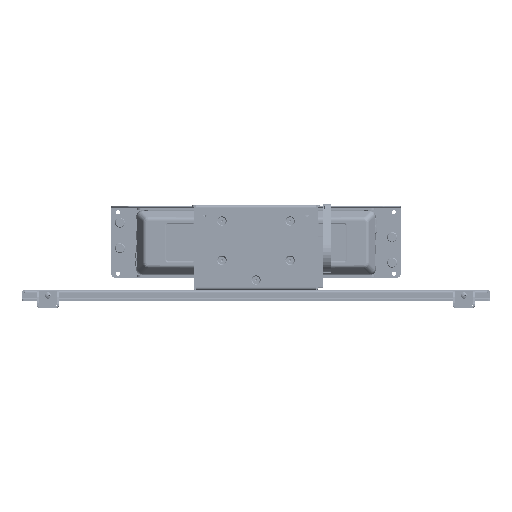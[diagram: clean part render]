
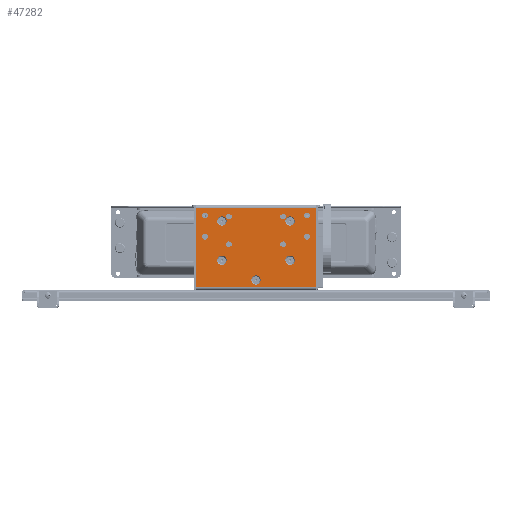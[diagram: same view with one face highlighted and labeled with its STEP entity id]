
A CAD part, top view. The second image highlights one B-rep face of the part: STEP entity #47282.
In plain terms, the highlighted planar face has unit normal (0, 0, 1) as drawn and (0, 1, 0) by its records, which use the part's own axes.
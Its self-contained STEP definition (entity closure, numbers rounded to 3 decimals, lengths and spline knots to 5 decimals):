
#3332=CIRCLE('',#54415,0.00437);
#3334=CIRCLE('',#54418,0.00437);
#3336=CIRCLE('',#54421,0.00437);
#3338=CIRCLE('',#54424,0.00437);
#3356=CIRCLE('',#54453,0.00697);
#3358=CIRCLE('',#54456,0.00697);
#3360=CIRCLE('',#54459,0.00697);
#3362=CIRCLE('',#54462,0.00697);
#3364=CIRCLE('',#54465,0.00697);
#3366=CIRCLE('',#54468,0.00369);
#3368=CIRCLE('',#54471,0.00369);
#3370=CIRCLE('',#54474,0.00369);
#3372=CIRCLE('',#54477,0.00369);
#7561=LINE('',#83080,#11660);
#7689=LINE('',#83621,#11788);
#7718=LINE('',#83691,#11817);
#7719=LINE('',#83692,#11818);
#11660=VECTOR('',#66211,1.);
#11788=VECTOR('',#66759,1.);
#11817=VECTOR('',#66844,1.);
#11818=VECTOR('',#66845,1.);
#23576=ORIENTED_EDGE('',*,*,#30824,.T.);
#23577=ORIENTED_EDGE('',*,*,#31105,.T.);
#23578=ORIENTED_EDGE('',*,*,#31067,.F.);
#23579=ORIENTED_EDGE('',*,*,#31106,.T.);
#23580=ORIENTED_EDGE('',*,*,#30827,.F.);
#23581=ORIENTED_EDGE('',*,*,#30829,.F.);
#23582=ORIENTED_EDGE('',*,*,#30831,.F.);
#23583=ORIENTED_EDGE('',*,*,#30833,.F.);
#23584=ORIENTED_EDGE('',*,*,#30859,.F.);
#23585=ORIENTED_EDGE('',*,*,#30861,.F.);
#23586=ORIENTED_EDGE('',*,*,#30863,.F.);
#23587=ORIENTED_EDGE('',*,*,#30865,.F.);
#23588=ORIENTED_EDGE('',*,*,#30867,.F.);
#23589=ORIENTED_EDGE('',*,*,#30869,.F.);
#23590=ORIENTED_EDGE('',*,*,#30871,.F.);
#23591=ORIENTED_EDGE('',*,*,#30873,.F.);
#23592=ORIENTED_EDGE('',*,*,#30875,.F.);
#30824=EDGE_CURVE('',#35539,#35540,#7561,.T.);
#30827=EDGE_CURVE('',#35541,#35541,#3332,.F.);
#30829=EDGE_CURVE('',#35543,#35543,#3334,.F.);
#30831=EDGE_CURVE('',#35545,#35545,#3336,.F.);
#30833=EDGE_CURVE('',#35547,#35547,#3338,.F.);
#30859=EDGE_CURVE('',#35573,#35573,#3356,.T.);
#30861=EDGE_CURVE('',#35575,#35575,#3358,.T.);
#30863=EDGE_CURVE('',#35577,#35577,#3360,.T.);
#30865=EDGE_CURVE('',#35579,#35579,#3362,.T.);
#30867=EDGE_CURVE('',#35581,#35581,#3364,.T.);
#30869=EDGE_CURVE('',#35583,#35583,#3366,.T.);
#30871=EDGE_CURVE('',#35585,#35585,#3368,.T.);
#30873=EDGE_CURVE('',#35587,#35587,#3370,.T.);
#30875=EDGE_CURVE('',#35589,#35589,#3372,.T.);
#31067=EDGE_CURVE('',#35741,#35742,#7689,.T.);
#31105=EDGE_CURVE('',#35540,#35742,#7718,.T.);
#31106=EDGE_CURVE('',#35741,#35539,#7719,.T.);
#35539=VERTEX_POINT('',#83081);
#35540=VERTEX_POINT('',#83082);
#35541=VERTEX_POINT('',#83087);
#35543=VERTEX_POINT('',#83092);
#35545=VERTEX_POINT('',#83097);
#35547=VERTEX_POINT('',#83102);
#35573=VERTEX_POINT('',#83165);
#35575=VERTEX_POINT('',#83170);
#35577=VERTEX_POINT('',#83175);
#35579=VERTEX_POINT('',#83180);
#35581=VERTEX_POINT('',#83185);
#35583=VERTEX_POINT('',#83190);
#35585=VERTEX_POINT('',#83195);
#35587=VERTEX_POINT('',#83200);
#35589=VERTEX_POINT('',#83205);
#35741=VERTEX_POINT('',#83620);
#35742=VERTEX_POINT('',#83622);
#39603=EDGE_LOOP('',(#23576,#23577,#23578,#23579));
#39604=EDGE_LOOP('',(#23580));
#39605=EDGE_LOOP('',(#23581));
#39606=EDGE_LOOP('',(#23582));
#39607=EDGE_LOOP('',(#23583));
#39608=EDGE_LOOP('',(#23584));
#39609=EDGE_LOOP('',(#23585));
#39610=EDGE_LOOP('',(#23586));
#39611=EDGE_LOOP('',(#23587));
#39612=EDGE_LOOP('',(#23588));
#39613=EDGE_LOOP('',(#23589));
#39614=EDGE_LOOP('',(#23590));
#39615=EDGE_LOOP('',(#23591));
#39616=EDGE_LOOP('',(#23592));
#43027=FACE_BOUND('',#39603,.T.);
#43028=FACE_BOUND('',#39604,.T.);
#43029=FACE_BOUND('',#39605,.T.);
#43030=FACE_BOUND('',#39606,.T.);
#43031=FACE_BOUND('',#39607,.T.);
#43032=FACE_BOUND('',#39608,.T.);
#43033=FACE_BOUND('',#39609,.T.);
#43034=FACE_BOUND('',#39610,.T.);
#43035=FACE_BOUND('',#39611,.T.);
#43036=FACE_BOUND('',#39612,.T.);
#43037=FACE_BOUND('',#39613,.T.);
#43038=FACE_BOUND('',#39614,.T.);
#43039=FACE_BOUND('',#39615,.T.);
#43040=FACE_BOUND('',#39616,.T.);
#44817=PLANE('',#54649);
#47282=ADVANCED_FACE('',(#43027,#43028,#43029,#43030,#43031,#43032,#43033,
#43034,#43035,#43036,#43037,#43038,#43039,#43040),#44817,.F.);
#54415=AXIS2_PLACEMENT_3D('',#83086,#66218,#66219);
#54418=AXIS2_PLACEMENT_3D('',#83091,#66224,#66225);
#54421=AXIS2_PLACEMENT_3D('',#83096,#66230,#66231);
#54424=AXIS2_PLACEMENT_3D('',#83101,#66236,#66237);
#54453=AXIS2_PLACEMENT_3D('',#83164,#66302,#66303);
#54456=AXIS2_PLACEMENT_3D('',#83169,#66308,#66309);
#54459=AXIS2_PLACEMENT_3D('',#83174,#66314,#66315);
#54462=AXIS2_PLACEMENT_3D('',#83179,#66320,#66321);
#54465=AXIS2_PLACEMENT_3D('',#83184,#66326,#66327);
#54468=AXIS2_PLACEMENT_3D('',#83189,#66332,#66333);
#54471=AXIS2_PLACEMENT_3D('',#83194,#66338,#66339);
#54474=AXIS2_PLACEMENT_3D('',#83199,#66344,#66345);
#54477=AXIS2_PLACEMENT_3D('',#83204,#66350,#66351);
#54649=AXIS2_PLACEMENT_3D('',#83690,#66842,#66843);
#66211=DIRECTION('',(-1.,0.,0.));
#66218=DIRECTION('',(0.,-1.,0.));
#66219=DIRECTION('',(0.,0.,-1.));
#66224=DIRECTION('',(0.,-1.,0.));
#66225=DIRECTION('',(0.,0.,-1.));
#66230=DIRECTION('',(0.,-1.,0.));
#66231=DIRECTION('',(0.,0.,-1.));
#66236=DIRECTION('',(0.,-1.,0.));
#66237=DIRECTION('',(0.,0.,-1.));
#66302=DIRECTION('',(0.,1.,0.));
#66303=DIRECTION('',(0.,0.,1.));
#66308=DIRECTION('',(0.,1.,0.));
#66309=DIRECTION('',(0.,0.,1.));
#66314=DIRECTION('',(0.,1.,0.));
#66315=DIRECTION('',(0.,0.,1.));
#66320=DIRECTION('',(0.,1.,0.));
#66321=DIRECTION('',(0.,0.,1.));
#66326=DIRECTION('',(0.,1.,0.));
#66327=DIRECTION('',(0.,0.,1.));
#66332=DIRECTION('',(0.,1.,0.));
#66333=DIRECTION('',(0.,0.,1.));
#66338=DIRECTION('',(0.,1.,0.));
#66339=DIRECTION('',(0.,0.,1.));
#66344=DIRECTION('',(0.,1.,0.));
#66345=DIRECTION('',(0.,0.,1.));
#66350=DIRECTION('',(0.,1.,0.));
#66351=DIRECTION('',(0.,0.,1.));
#66759=DIRECTION('',(-1.,0.,0.));
#66842=DIRECTION('',(0.,-1.,0.));
#66843=DIRECTION('',(0.,0.,-1.));
#66844=DIRECTION('',(0.,0.,1.));
#66845=DIRECTION('',(0.,0.,-1.));
#83080=CARTESIAN_POINT('',(0.089,0.,0.00397));
#83081=CARTESIAN_POINT('',(0.089,0.,0.00397));
#83082=CARTESIAN_POINT('',(-0.089,0.,0.00397));
#83086=CARTESIAN_POINT('',(0.0762,0.,0.01588));
#83087=CARTESIAN_POINT('',(0.0762,0.,0.01151));
#83091=CARTESIAN_POINT('',(-0.0762,0.,0.04763));
#83092=CARTESIAN_POINT('',(-0.0762,0.,0.04326));
#83096=CARTESIAN_POINT('',(0.0762,0.,0.04763));
#83097=CARTESIAN_POINT('',(0.0762,0.,0.04326));
#83101=CARTESIAN_POINT('',(-0.0762,0.,0.01588));
#83102=CARTESIAN_POINT('',(-0.0762,0.,0.01151));
#83164=CARTESIAN_POINT('',(0.05087,0.,0.08271));
#83165=CARTESIAN_POINT('',(0.05087,0.,0.08968));
#83169=CARTESIAN_POINT('',(-0.05087,0.,0.08271));
#83170=CARTESIAN_POINT('',(-0.05087,0.,0.08968));
#83174=CARTESIAN_POINT('',(0.05087,0.,0.02397));
#83175=CARTESIAN_POINT('',(0.05087,0.,0.03095));
#83179=CARTESIAN_POINT('',(-0.05087,0.,0.02397));
#83180=CARTESIAN_POINT('',(-0.05087,0.,0.03095));
#83184=CARTESIAN_POINT('',(0.,0.,0.11208));
#83185=CARTESIAN_POINT('',(0.,0.,0.11905));
#83189=CARTESIAN_POINT('',(0.04048,0.,0.05874));
#83190=CARTESIAN_POINT('',(0.04048,0.,0.06242));
#83194=CARTESIAN_POINT('',(-0.04048,0.,0.01746));
#83195=CARTESIAN_POINT('',(-0.04048,0.,0.02115));
#83199=CARTESIAN_POINT('',(-0.04048,0.,0.05874));
#83200=CARTESIAN_POINT('',(-0.04048,0.,0.06242));
#83204=CARTESIAN_POINT('',(0.04048,0.,0.01746));
#83205=CARTESIAN_POINT('',(0.04048,0.,0.02115));
#83620=CARTESIAN_POINT('',(0.089,0.,0.12303));
#83621=CARTESIAN_POINT('',(-0.089,0.,0.12303));
#83622=CARTESIAN_POINT('',(-0.089,0.,0.12303));
#83690=CARTESIAN_POINT('',(0.,0.,0.));
#83691=CARTESIAN_POINT('',(-0.089,0.,0.));
#83692=CARTESIAN_POINT('',(0.089,0.,0.));
